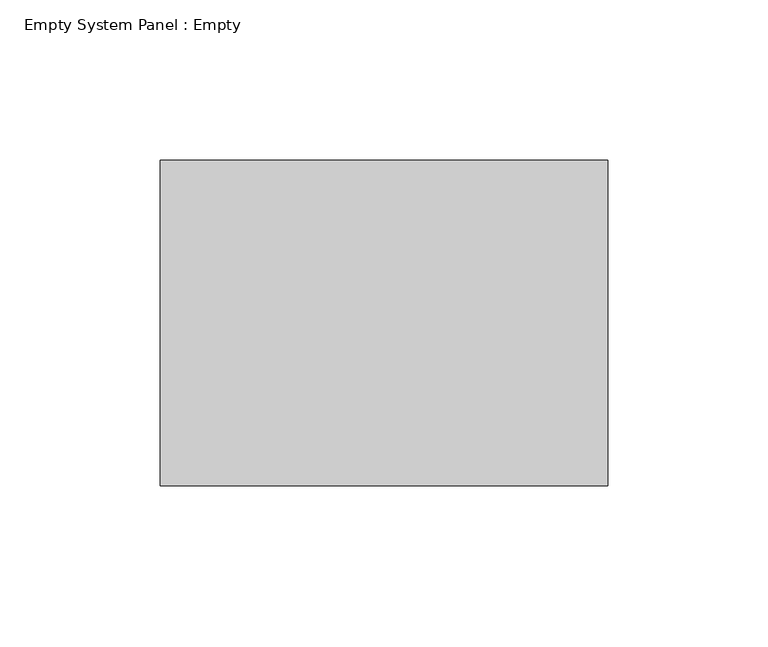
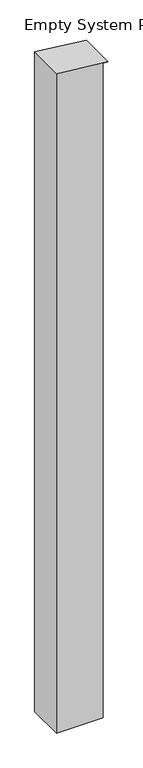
"""IFC4 building model written with IfcOpenShell, lengths in millimetres: plate geometry, Empty System Panel : Empty."""

from ifc_helpers import new_model, si_unit, frame, origin, place, context, project, spatial, polyline, outline, extrude, source, transform, mapped, element, save


def empty_system_panel_empty_e659cf48(model_context):
    return source(origin(), model_context, "Body", "SweptSolid", [
        extrude(outline(polyline([(0.0, -69.85), (0.0, 57.15), (1872.0279395, 57.15), (1872.0279395, 69.85), (1887.6531294, -69.85), (0.0, -69.85)])), frame((0.0, -50.8, 0.0), z_axis=(0.0, 1.0, 0.0), x_axis=(0.0, 0.0, 1.0)), (0.0, 0.0, 1.0), 101.6),
    ])


if __name__ == "__main__":
    model = new_model("IFC4")
    model_context = context("Model", 3, world=origin())
    ifc_project = project(units=[si_unit("LENGTHUNIT", "METRE", prefix="MILLI")], contexts=[model_context])
    site = spatial("IfcSite", under=ifc_project)
    building = spatial("IfcBuilding", under=site)
    placement = place(None, origin())
    empty_system_panel_empty_shape = empty_system_panel_empty_e659cf48(model_context)
    element("IfcPlate", 1, ObjectType="Empty System Panel : Empty", at=placement, inside=building, context=model_context, shape_type="MappedRepresentation", body=[
        mapped(empty_system_panel_empty_shape, transform((0.0, 0.0, 0.0), x_axis=(1.0, 0.0, 0.0), y_axis=(0.0, 1.0, 0.0), z_axis=(0.0, 0.0, 1.0))),
    ])
    save(model, "model.ifc")
